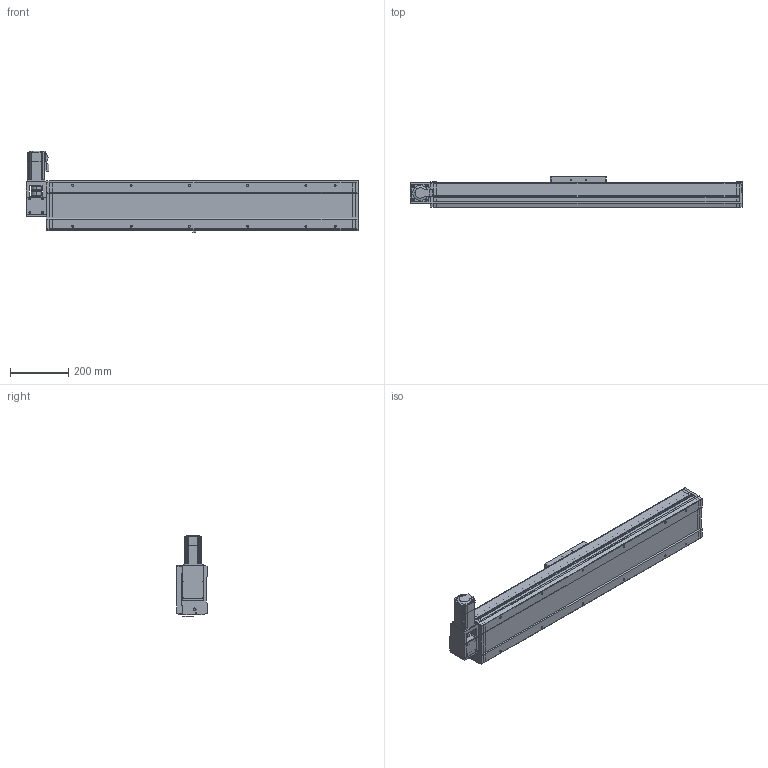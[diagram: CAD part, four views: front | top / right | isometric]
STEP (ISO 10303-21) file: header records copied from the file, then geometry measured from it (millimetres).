
FILE_DESCRIPTION((''),'2;1');
FILE_NAME('170-TZJ3FL-S750_ASM','2015-12-04T',('lenovo'),(''),'PRO/ENGINEER BY PARAMETRIC TECHNOLOGY CORPORATION, 2010280','PRO/ENGINEER BY PARAMETRIC TECHNOLOGY CORPORATION, 2010280','');
FILE_SCHEMA(('CONFIG_CONTROL_DESIGN'));
Length unit declared in the file: millimetre
Products named in the file (5): 170-TJFL-DZ; 170-HK; 170-HDB-01; 170-TZJ3FL-DJZ; 170-TZJ3FL-S750_ASM
Assembly tree (4 placements, depth 2):
  170-TZJ3FL-S750_ASM
    170-TJFL-DZ
    170-HK
    170-HDB-01
    170-TZJ3FL-DJZ
Bounding box: 1139 x 107 x 278.5 mm (x, y, z)
Volume: 8710304.9 mm3; surface area: 1344929.7 mm2
Topology: 6 solids, 30 shells, 1480 faces, 4021 edges, 2681 vertices
Faces by surface type: plane 792, cylinder 547, cone 113, torus 28
Entity records: 47419 total; most frequent: CARTESIAN_POINT 8465, DIRECTION 8324, ORIENTED_EDGE 8042, EDGE_CURVE 4021, AXIS2_PLACEMENT_3D 2856, VERTEX_POINT 2681, VECTOR 2612, LINE 2612
